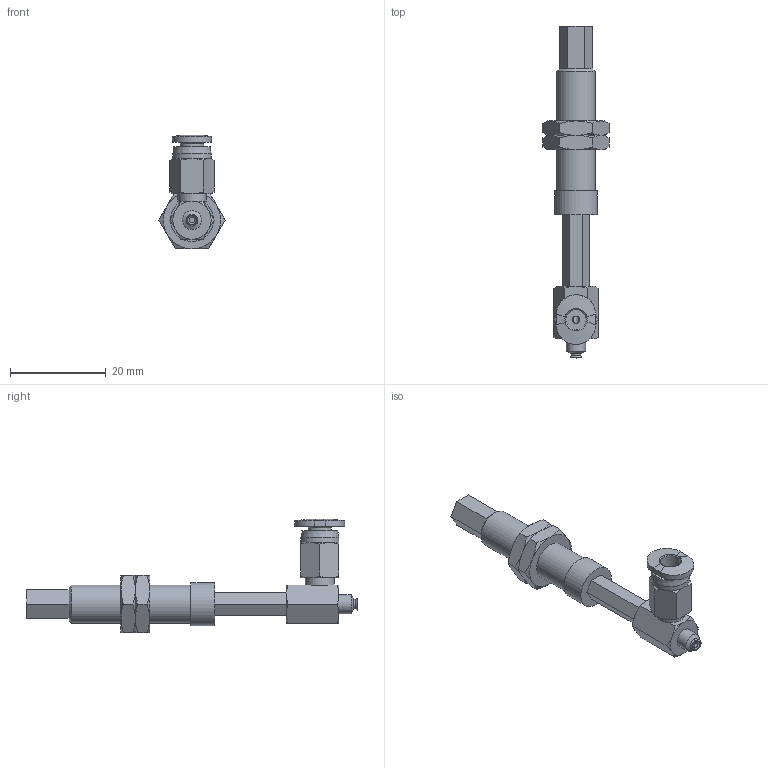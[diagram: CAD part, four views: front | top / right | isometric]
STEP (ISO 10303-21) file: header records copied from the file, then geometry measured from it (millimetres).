
FILE_DESCRIPTION(('STEP AP203'),'1');
FILE_NAME('-O.stp','2025-04-10T02:11:41',(' '),(' '),'Spatial InterOp 3D',' ',' ');
FILE_SCHEMA(('CONFIG_CONTROL_DESIGN'));
Length unit declared in the file: millimetre
Products named in the file (7): BNABPFYH-2A-15-※-O; CONNECTOR-H-2A-15; Nut-2A-15-h; NAPFTH-2A-15-FBODY; NAPFTH-2A-15-MBODY; BPFG-2A-※; PC-C_04-M3
Assembly tree (7 placements, depth 2):
  BNABPFYH-2A-15-※-O
    CONNECTOR-H-2A-15
    Nut-2A-15-h  x2
    NAPFTH-2A-15-FBODY
    NAPFTH-2A-15-MBODY
    BPFG-2A-※
    PC-C_04-M3
Bounding box: 13.86 x 69.5 x 23.77 mm (x, y, z)
Volume: 3219.2 mm3; surface area: 4619.2 mm2
Topology: 6 solids, 8 shells, 188 faces, 399 edges, 242 vertices
Faces by surface type: plane 81, cone 67, cylinder 23, torus 9, bspline 5, revolution 3
Full cylindrical faces by diameter (mm): 1.2 x2, 2 x2, 2.459 x2, 2.5 x2, 3 x4, 4 x1, 4.9 x1, 6 x1, 6.1 x1, 7.188 x2, 8 x2, 9 x1
Entity records: 4905 total; most frequent: CARTESIAN_POINT 1342, DIRECTION 657, ORIENTED_EDGE 590, EDGE_CURVE 296, AXIS2_PLACEMENT_3D 275, EDGE_LOOP 238, VERTEX_POINT 206, FACE_OUTER_BOUND 135
